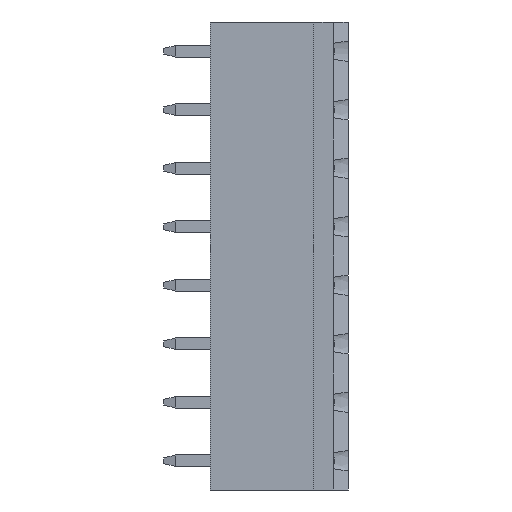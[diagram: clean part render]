
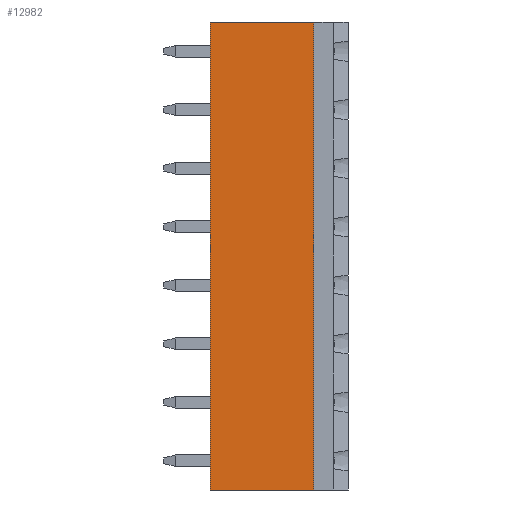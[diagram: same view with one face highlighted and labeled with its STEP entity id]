
A CAD part, left-side view. The second image highlights one B-rep face of the part: STEP entity #12982.
In plain terms, the highlighted planar face has unit normal (-1, 0, 0).
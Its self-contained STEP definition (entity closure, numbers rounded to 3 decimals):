
#2071 = EDGE_LOOP ( 'NONE', ( #6547, #17961, #10520, #14503 ) ) ;
#2785 = DIRECTION ( 'NONE',  ( 0., -1., 0. ) ) ;
#2903 = FACE_OUTER_BOUND ( 'NONE', #2071, .T. ) ;
#3014 = CARTESIAN_POINT ( 'NONE',  ( -3.9, 12., 0. ) ) ;
#3201 = DIRECTION ( 'NONE',  ( 0., 0., -1. ) ) ;
#4552 = DIRECTION ( 'NONE',  ( 0., -1., 0. ) ) ;
#5747 = CARTESIAN_POINT ( 'NONE',  ( -3.9, 12., 40.64 ) ) ;
#5858 = EDGE_CURVE ( 'NONE', #16004, #18726, #6099, .T. ) ;
#5875 = VERTEX_POINT ( 'NONE', #3014 ) ;
#5944 = CARTESIAN_POINT ( 'NONE',  ( -3.9, 12., 0. ) ) ;
#5949 = AXIS2_PLACEMENT_3D ( 'NONE', #20162, #15744, #11025 ) ;
#6099 = LINE ( 'NONE', #13685, #10188 ) ;
#6547 = ORIENTED_EDGE ( 'NONE', *, *, #18510, .T. ) ;
#7081 = CARTESIAN_POINT ( 'NONE',  ( -3.9, 3., 40.64 ) ) ;
#9111 = EDGE_CURVE ( 'NONE', #5875, #16004, #10980, .T. ) ;
#9443 = DIRECTION ( 'NONE',  ( 0., 0., 1. ) ) ;
#10188 = VECTOR ( 'NONE', #4552, 1000. ) ;
#10520 = ORIENTED_EDGE ( 'NONE', *, *, #5858, .F. ) ;
#10796 = LINE ( 'NONE', #13879, #11558 ) ;
#10980 = LINE ( 'NONE', #5944, #17781 ) ;
#11025 = DIRECTION ( 'NONE',  ( 0., 0., 1. ) ) ;
#11558 = VECTOR ( 'NONE', #3201, 1000. ) ;
#12341 = LINE ( 'NONE', #13193, #16518 ) ;
#12982 = ADVANCED_FACE ( 'NONE', ( #2903 ), #13900, .T. ) ;
#13193 = CARTESIAN_POINT ( 'NONE',  ( -3.9, 12., 0. ) ) ;
#13685 = CARTESIAN_POINT ( 'NONE',  ( -3.9, 12., 40.64 ) ) ;
#13879 = CARTESIAN_POINT ( 'NONE',  ( -3.9, 3., 40.64 ) ) ;
#13900 = PLANE ( 'NONE',  #5949 ) ;
#14503 = ORIENTED_EDGE ( 'NONE', *, *, #9111, .F. ) ;
#15662 = EDGE_CURVE ( 'NONE', #18726, #20256, #10796, .T. ) ;
#15744 = DIRECTION ( 'NONE',  ( -1., 0., 0. ) ) ;
#16004 = VERTEX_POINT ( 'NONE', #5747 ) ;
#16518 = VECTOR ( 'NONE', #2785, 1000. ) ;
#16686 = CARTESIAN_POINT ( 'NONE',  ( -3.9, 3., 0. ) ) ;
#17781 = VECTOR ( 'NONE', #9443, 1000. ) ;
#17961 = ORIENTED_EDGE ( 'NONE', *, *, #15662, .F. ) ;
#18510 = EDGE_CURVE ( 'NONE', #5875, #20256, #12341, .T. ) ;
#18726 = VERTEX_POINT ( 'NONE', #7081 ) ;
#20162 = CARTESIAN_POINT ( 'NONE',  ( -3.9, 12., 0. ) ) ;
#20256 = VERTEX_POINT ( 'NONE', #16686 ) ;
